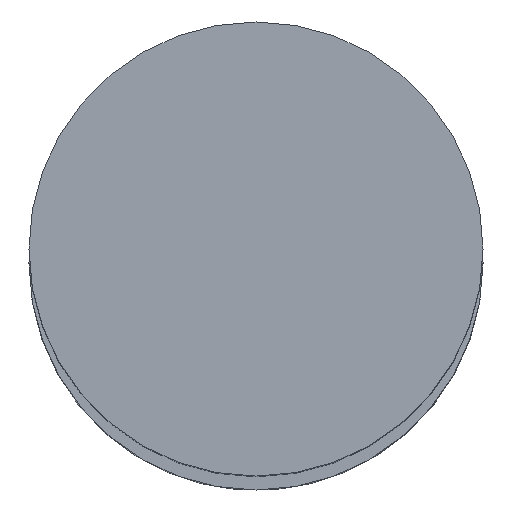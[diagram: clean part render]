
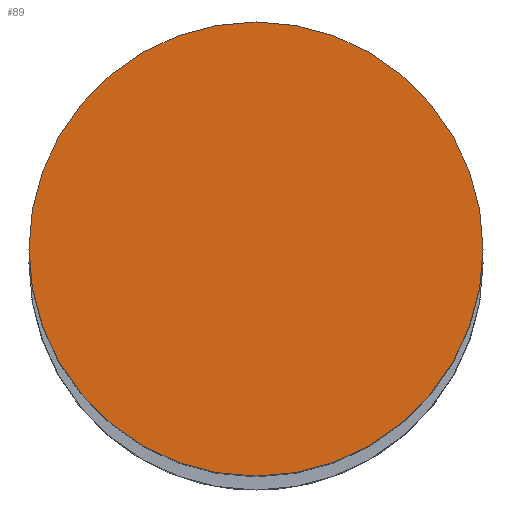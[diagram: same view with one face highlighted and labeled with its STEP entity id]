
A CAD part, top view. The second image highlights one B-rep face of the part: STEP entity #89.
In plain terms, the highlighted planar face has unit normal (0, 0, 1).
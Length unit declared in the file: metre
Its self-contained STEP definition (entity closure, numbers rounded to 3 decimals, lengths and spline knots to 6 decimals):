
#89=ADVANCED_FACE('0:129',(#177),#178,.T.);
#177=FACE_OUTER_BOUND('',#269,.T.);
#178=PLANE('',#270);
#269=EDGE_LOOP('',(#430,#431));
#270=AXIS2_PLACEMENT_3D('',#432,#433,#434);
#430=ORIENTED_EDGE('',*,*,#503,.F.);
#431=ORIENTED_EDGE('',*,*,#549,.F.);
#432=CARTESIAN_POINT('',(0.,0.,0.209));
#433=DIRECTION('',(0.0,0.0,1.0));
#434=DIRECTION('',(1.0,0.0,0.0));
#503=EDGE_CURVE('13:581',#587,#583,#589,.F.);
#549=EDGE_CURVE('',#583,#587,#656,.F.);
#583=VERTEX_POINT('',#707);
#587=VERTEX_POINT('',#712);
#589=CIRCLE('',#715,0.008);
#656=CIRCLE('',#796,0.008);
#707=CARTESIAN_POINT('',(0.00789,0.000133,0.209));
#712=CARTESIAN_POINT('',(-0.00811,0.000133,0.209));
#715=AXIS2_PLACEMENT_3D('',#856,#857,#858);
#796=AXIS2_PLACEMENT_3D('',#924,#925,#926);
#856=CARTESIAN_POINT('',(-0.00011,0.000133,0.209));
#857=DIRECTION('',(0.0,0.0,1.0));
#858=DIRECTION('',(1.0,0.0,0.0));
#924=CARTESIAN_POINT('',(-0.00011,0.000133,0.209));
#925=DIRECTION('',(0.0,0.0,1.0));
#926=DIRECTION('',(1.0,0.0,0.0));
